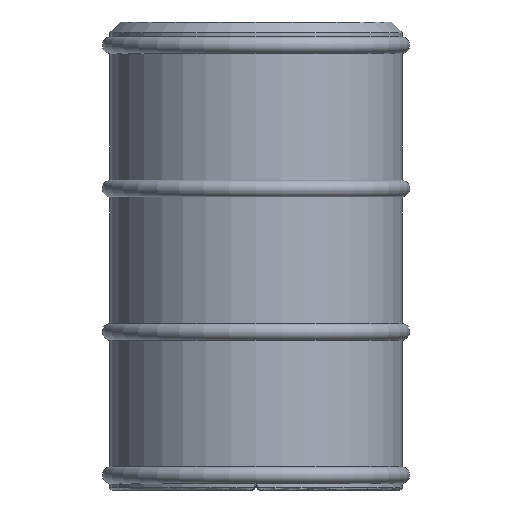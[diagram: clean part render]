
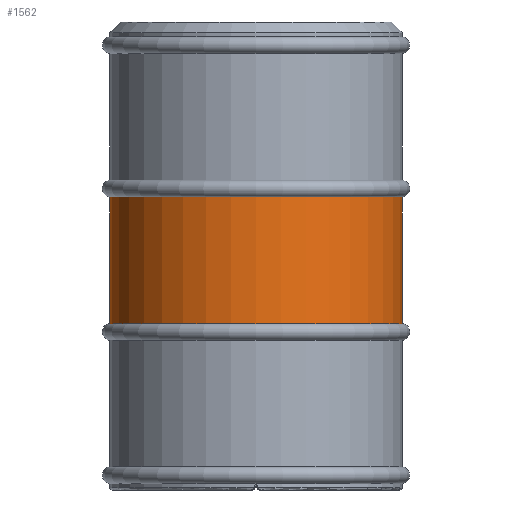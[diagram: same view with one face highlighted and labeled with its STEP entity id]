
A CAD part, front view. The second image highlights one B-rep face of the part: STEP entity #1562.
In plain terms, the highlighted cylindrical face has radius 34.65 mm (diameter 69.3 mm), a full revolution.
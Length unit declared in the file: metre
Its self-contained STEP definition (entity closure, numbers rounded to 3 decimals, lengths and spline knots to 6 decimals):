
#352=ORIENTED_EDGE('',*,*,#836,.F.);
#353=ORIENTED_EDGE('',*,*,#837,.T.);
#836=EDGE_CURVE('',#1078,#1078,#1230,.T.);
#837=EDGE_CURVE('',#1079,#1079,#1231,.T.);
#1078=VERTEX_POINT('',#2323);
#1079=VERTEX_POINT('',#2325);
#1230=CIRCLE('',#1680,0.03465);
#1231=CIRCLE('',#1681,0.03465);
#1301=EDGE_LOOP('',(#352));
#1302=EDGE_LOOP('',(#353));
#1419=FACE_BOUND('',#1301,.T.);
#1420=FACE_BOUND('',#1302,.T.);
#1537=CYLINDRICAL_SURFACE('',#1679,0.03465);
#1562=ADVANCED_FACE('',(#1419,#1420),#1537,.T.);
#1679=AXIS2_PLACEMENT_3D('',#2321,#1864,#1865);
#1680=AXIS2_PLACEMENT_3D('',#2322,#1866,#1867);
#1681=AXIS2_PLACEMENT_3D('',#2324,#1868,#1869);
#1864=DIRECTION('',(0.,0.,1.));
#1865=DIRECTION('',(1.,0.,0.));
#1866=DIRECTION('',(0.,0.,1.));
#1867=DIRECTION('',(1.,0.,0.));
#1868=DIRECTION('',(0.,0.,1.));
#1869=DIRECTION('',(1.,0.,0.));
#2321=CARTESIAN_POINT('',(0.,0.,-0.003));
#2322=CARTESIAN_POINT('',(0.,0.,0.06651));
#2323=CARTESIAN_POINT('',(0.03465,0.,0.06651));
#2324=CARTESIAN_POINT('',(0.,0.,0.03649));
#2325=CARTESIAN_POINT('',(0.03465,0.,0.03649));
